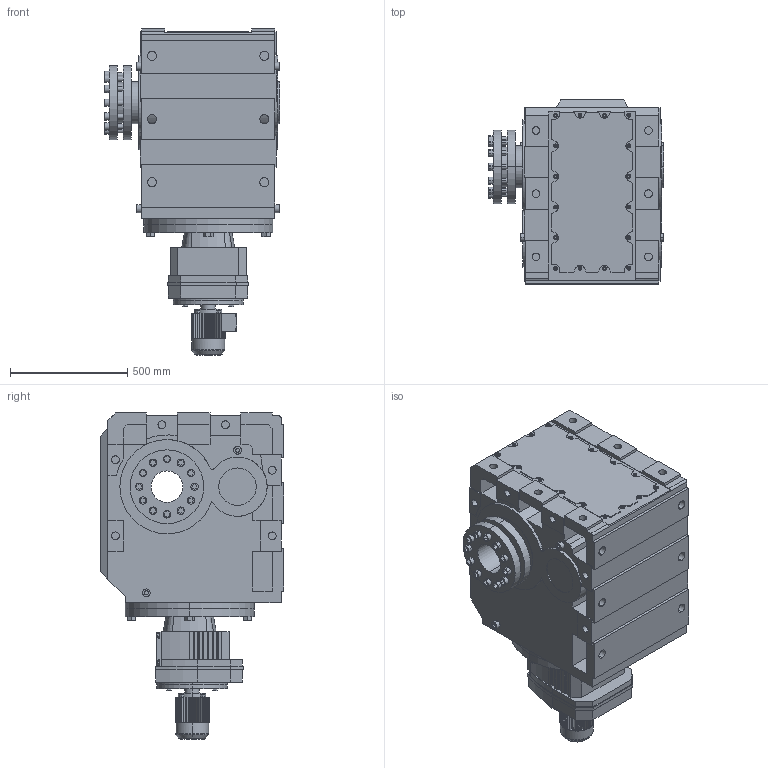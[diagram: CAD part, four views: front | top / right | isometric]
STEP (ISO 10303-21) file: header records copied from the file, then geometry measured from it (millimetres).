
FILE_DESCRIPTION(('Open CASCADE Model'),'2;1');
FILE_NAME('Open CASCADE Shape Model','2021-07-24T16:45:51',('Author'),( 'Open CASCADE'),'Open CASCADE STEP processor 6.3','Open CASCADE 6.3' ,'Unknown');
FILE_SCHEMA(('AUTOMOTIVE_DESIGN_CC2 { 1 2 10303 214 -1 1 5 4 }'));
Length unit declared in the file: millimetre
Products named in the file (5): 1_KH167R97DT80-A; K167‵187_167.step; 萇儂_300-DT80-231-295-145-122.step; R_167_97.step; 梠攫諾陑粣K_167.step
Assembly tree (4 placements, depth 2):
  1_KH167R97DT80-A
    K167‵187_167.step
    萇儂_300-DT80-231-295-145-122.step
    R_167_97.step
    梠攫諾陑粣K_167.step
Bounding box: 748.48 x 786 x 1393 mm (x, y, z)
Volume: 375875690.2 mm3; surface area: 6609641.2 mm2
Topology: 4 solids, 4 shells, 1300 faces, 3386 edges, 2221 vertices
Faces by surface type: plane 900, cylinder 386, cone 10, torus 4
Entity records: 84298 total; most frequent: CARTESIAN_POINT 18934, DIRECTION 11465, ORIENTED_EDGE 6772, PCURVE 6772, DEFINITIONAL_REPRESENTATION 6772, LINE 6441, VECTOR 6441, EDGE_CURVE 3386
